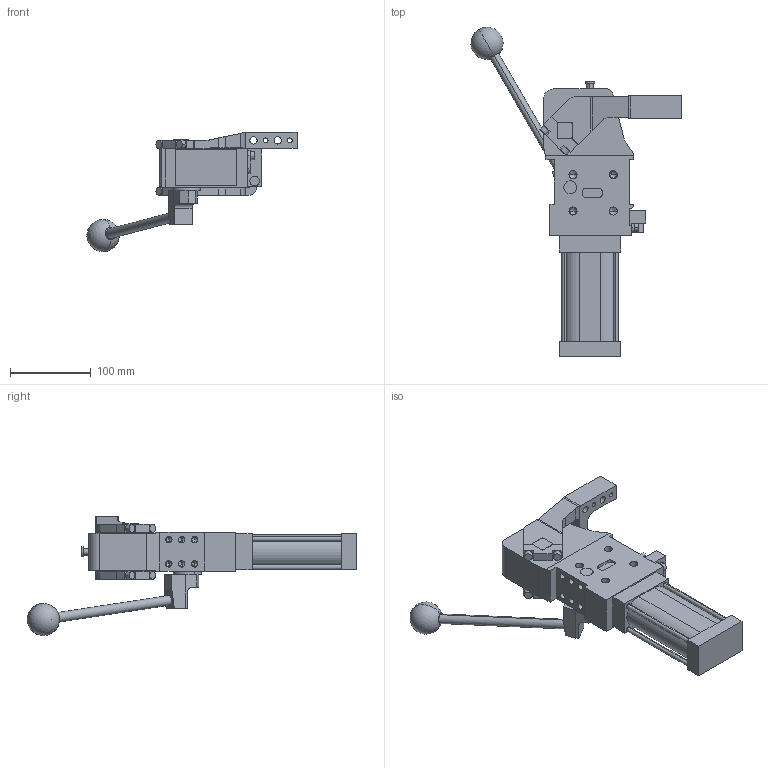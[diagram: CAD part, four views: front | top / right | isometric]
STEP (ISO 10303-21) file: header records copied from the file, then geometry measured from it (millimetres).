
FILE_DESCRIPTION (( 'STEP AP214' ), '1' );
FILE_NAME ('cplm50lbv1ssi1g_16.STEP', '2023-01-26T13:11:58', ( '' ), ( '' ), 'SwSTEP 2.0', 'SolidWorks 2022', '' );
FILE_SCHEMA (( 'AUTOMOTIVE_DESIGN' ));
Length unit declared in the file: millimetre
Products named in the file (5): meccanica_cplm_50; blocchetto_VEP_0; cplm50lbv1ssi1g_16; leva_dx_offset_15_cpl50; comando_manuale_cplm_50
Assembly tree (4 placements, depth 2):
  cplm50lbv1ssi1g_16
    meccanica_cplm_50
    blocchetto_VEP_0
    leva_dx_offset_15_cpl50
    comando_manuale_cplm_50
Bounding box: 260.54 x 408.46 x 148 mm (x, y, z)
Volume: 1469960 mm3; surface area: 181399.7 mm2
Topology: 4 solids, 4 shells, 431 faces, 1108 edges, 691 vertices
Faces by surface type: plane 212, cylinder 167, cone 50, sphere 2
Entity records: 14371 total; most frequent: DIRECTION 2277, CARTESIAN_POINT 2271, ORIENTED_EDGE 2114, EDGE_CURVE 1057, AXIS2_PLACEMENT_3D 792, LINE 693, VECTOR 693, VERTEX_POINT 688
